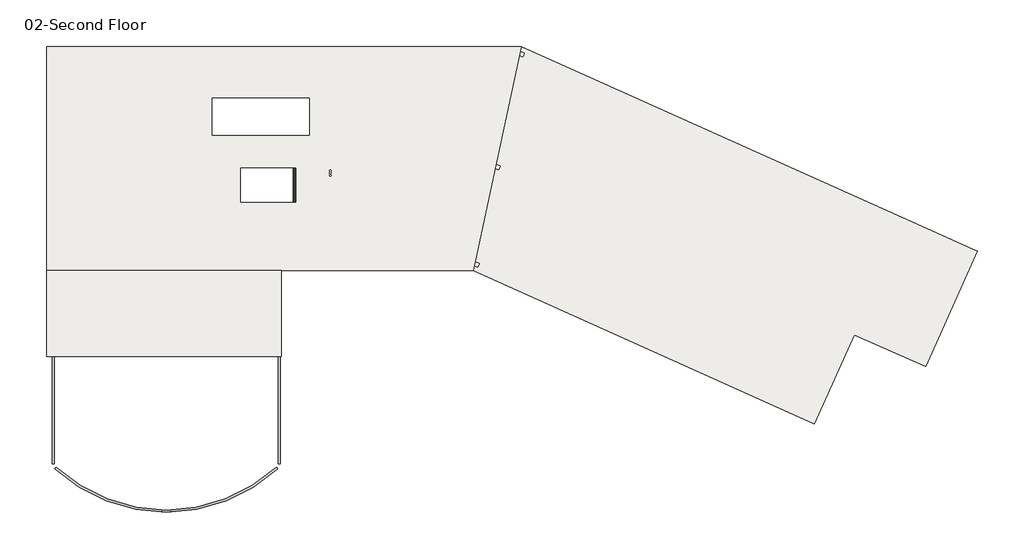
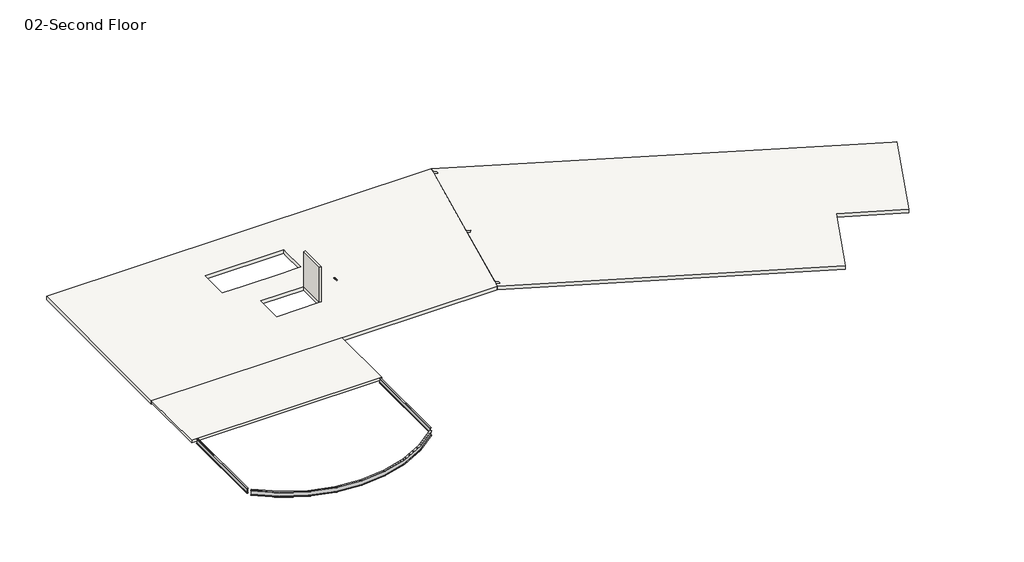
# One storey: 3 beams, 3 slabs, 1 wall.
"""IFC4 building model written with IfcOpenShell, lengths in millimetres."""

import ifcopenshell
import ifcopenshell.guid

model = None  # the IFC model being written
_history = None  # IfcOwnerHistory: only IFC2X3 demands one
_inside = {}  # id of a spatial element -> (the spatial element, [elements in it])
_under = {}  # id of a project, library or spatial element -> (it, [spatial elements below it])
_declared = {}  # id of a project -> (the project, [libraries it declares])
_typed = {}  # id of a type object -> (the type object, [elements of that type])
_made_of = {}  # id of a material, layer set ... -> (it, [elements and type objects made of it])


def new_model(schema):
    """Start an empty IFC model of exactly this schema.

    Asked for "IFC4X3", IfcOpenShell would pick the latest addendum, in which some entities
    have other attributes; the version numbers below select the first issue.
    IFC2X3 requires an IfcOwnerHistory on every rooted entity: one is made here for all.
    """
    global model, _history
    if schema == "IFC4X3":
        model = ifcopenshell.file(schema_version=(4, 3, 0, 0))
    else:
        model = ifcopenshell.file(schema=schema)
    _inside.clear()
    _under.clear()
    _declared.clear()
    _typed.clear()
    _made_of.clear()
    _history = None
    if model.schema == "IFC2X3":
        org = make("IfcOrganization", Name="unknown")
        user = make(
            "IfcPersonAndOrganization",
            ThePerson=make("IfcPerson", FamilyName="unknown"),
            TheOrganization=org,
        )
        app = make(
            "IfcApplication",
            ApplicationDeveloper=org,
            Version="unknown",
            ApplicationFullName="unknown",
            ApplicationIdentifier="unknown",
        )
        _history = make(
            "IfcOwnerHistory",
            OwningUser=user,
            OwningApplication=app,
            ChangeAction="ADDED",
            CreationDate=0,
        )
    return model


def make(cls, **values):
    """One entity of the class cls with the attributes given. An attribute that is None is left unset."""
    return model.create_entity(
        cls, **{name: value for name, value in values.items() if value is not None}
    )


def rooted(cls, **values):
    """An entity with a GlobalId (a new one), such as an element, a storey or a relation."""
    return make(cls, GlobalId=ifcopenshell.guid.new(), OwnerHistory=_history, **values)


def si_unit(unit_type, name, prefix=None):
    """IfcSIUnit, for example si_unit("LENGTHUNIT", "METRE", prefix="MILLI")."""
    return make("IfcSIUnit", UnitType=unit_type, Prefix=prefix, Name=name)


def assignment(units):
    """IfcUnitAssignment: the units of a project."""
    return None if units is None else make("IfcUnitAssignment", Units=units)


def point(xyz):
    """IfcCartesianPoint."""
    return None if xyz is None else make("IfcCartesianPoint", Coordinates=xyz)


def direction(xyz):
    """IfcDirection."""
    return None if xyz is None else make("IfcDirection", DirectionRatios=xyz)


def frame(location, z_axis=None, x_axis=None):
    """IfcAxis2Placement3D, a coordinate frame: its origin and axes. An axis left out is left unset."""
    return make(
        "IfcAxis2Placement3D",
        Location=point(location),
        Axis=direction(z_axis),
        RefDirection=direction(x_axis),
    )


def frame_2d(location, x_axis=None):
    """IfcAxis2Placement2D, a coordinate frame in the plane: its origin and x axis."""
    return make(
        "IfcAxis2Placement2D", Location=point(location), RefDirection=direction(x_axis)
    )


def origin():
    """The frame at (0, 0, 0) with its axes left unset."""
    return frame((0.0, 0.0, 0.0))


def place(relative_to, where):
    """IfcLocalPlacement: puts the frame where relative to a parent placement (None: the world)."""
    return make(
        "IfcLocalPlacement", PlacementRelTo=relative_to, RelativePlacement=where
    )


def context(
    kind, dimensions, precision=None, world=None, true_north=None, identifier=None
):
    """IfcGeometricRepresentationContext, for example the 3D "Model" context."""
    return make(
        "IfcGeometricRepresentationContext",
        ContextIdentifier=identifier,
        ContextType=kind,
        CoordinateSpaceDimension=dimensions,
        Precision=precision,
        WorldCoordinateSystem=world,
        TrueNorth=true_north,
    )


def project(units=None, contexts=None):
    """IfcProject with its units and contexts."""
    return rooted(
        "IfcProject",
        Name="project",
        RepresentationContexts=contexts,
        UnitsInContext=assignment(units),
    )


def spatial(cls, under=None, at=None, **own):
    """A site, building, storey or space (cls), placed at a placement, below another one or the project."""
    s = rooted(cls, ObjectPlacement=at, **own)
    if under is not None:
        _under.setdefault(under.id(), (under, []))[1].append(s)
    return s


def polyline(points):
    """IfcPolyline through the points."""
    return make("IfcPolyline", Points=[point(p) for p in points])


def circle_curve(where, radius):
    """IfcCircle in the frame where."""
    return make("IfcCircle", Position=where, Radius=radius)


def ellipse_curve(where, semi_axis1, semi_axis2):
    """IfcEllipse in the frame where."""
    return make(
        "IfcEllipse", Position=where, SemiAxis1=semi_axis1, SemiAxis2=semi_axis2
    )


def trimmed(basis, trim1, trim2, sense, master):
    """IfcTrimmedCurve: the piece of a basis curve between two trims."""
    return make(
        "IfcTrimmedCurve",
        BasisCurve=basis,
        Trim1=trim1,
        Trim2=trim2,
        SenseAgreement=sense,
        MasterRepresentation=master,
    )


def segment(curve, same_sense, transition):
    """IfcCompositeCurveSegment."""
    return make(
        "IfcCompositeCurveSegment",
        Transition=transition,
        SameSense=same_sense,
        ParentCurve=curve,
    )


def composite_curve(segments, self_intersect=None):
    """IfcCompositeCurve: segments joined end to end."""
    return make("IfcCompositeCurve", Segments=segments, SelfIntersect=self_intersect)


def outline(outer, holes=None, kind="AREA"):
    """IfcArbitraryClosedProfileDef: a profile drawn as a closed curve; with holes, ...WithVoids."""
    if holes is None:
        return make("IfcArbitraryClosedProfileDef", ProfileType=kind, OuterCurve=outer)
    return make(
        "IfcArbitraryProfileDefWithVoids",
        ProfileType=kind,
        OuterCurve=outer,
        InnerCurves=holes,
    )


def extrude(swept, where, along, depth):
    """IfcExtrudedAreaSolid: the profile swept, set in the frame where, extruded along a direction by depth."""
    return make(
        "IfcExtrudedAreaSolid",
        SweptArea=swept,
        Position=where,
        ExtrudedDirection=direction(along),
        Depth=depth,
    )


def faces_of(points, faces, orient=None, outer=None):
    """IfcFace entities. A face is a list of loops; a loop is a list of indices into points, from 0.

    orient and outer hold one flag for each loop. By default every Orientation is true, the
    first loop of a face is its IfcFaceOuterBound and the others are IfcFaceBound.
    """
    made = []
    for i, loops in enumerate(faces):
        bounds = []
        for j, loop in enumerate(loops):
            is_outer = j == 0 if outer is None else outer[i][j]
            bounds.append(
                make(
                    "IfcFaceOuterBound" if is_outer else "IfcFaceBound",
                    Bound=make("IfcPolyLoop", Polygon=[points[k] for k in loop]),
                    Orientation=True if orient is None else orient[i][j],
                )
            )
        made.append(make("IfcFace", Bounds=bounds))
    return made


def faceted_brep(points, faces, orient=None, outer=None, voids=None):
    """IfcFacetedBrep: a solid bounded by flat faces; with voids (closed shells), ...WithVoids."""
    shared = [point(p) for p in points]
    hull = make("IfcClosedShell", CfsFaces=faces_of(shared, faces, orient, outer))
    if voids is None:
        return make("IfcFacetedBrep", Outer=hull)
    return make(
        "IfcFacetedBrepWithVoids",
        Outer=hull,
        Voids=[
            make(cls, CfsFaces=faces_of(shared, fs, o, b)) for cls, fs, o, b in voids
        ],
    )


def shape(context_of_items, identifier, shape_type, items):
    """IfcShapeRepresentation: the items that make up one representation, for example the "Body"."""
    return make(
        "IfcShapeRepresentation",
        ContextOfItems=context_of_items,
        RepresentationIdentifier=identifier,
        RepresentationType=shape_type,
        Items=items,
    )


def source(mapping_origin, context_of_items, identifier, shape_type, items):
    """IfcRepresentationMap: a shape defined once, which mapped items show again and again."""
    return make(
        "IfcRepresentationMap",
        MappingOrigin=mapping_origin,
        MappedRepresentation=shape(context_of_items, identifier, shape_type, items),
    )


def transform(
    local_origin,
    x_axis=None,
    y_axis=None,
    z_axis=None,
    scale=None,
    scale2=None,
    scale3=None,
    uniform=True,
):
    """IfcCartesianTransformationOperator3D, or its non-uniform kind. x_axis, y_axis, z_axis: its Axis1, 2, 3."""
    if uniform:
        return make(
            "IfcCartesianTransformationOperator3D",
            Axis1=direction(x_axis),
            Axis2=direction(y_axis),
            LocalOrigin=point(local_origin),
            Scale=scale,
            Axis3=direction(z_axis),
        )
    return make(
        "IfcCartesianTransformationOperator3DnonUniform",
        Axis1=direction(x_axis),
        Axis2=direction(y_axis),
        LocalOrigin=point(local_origin),
        Scale=scale,
        Axis3=direction(z_axis),
        Scale2=scale2,
        Scale3=scale3,
    )


def mapped(mapping_source, mapping_target):
    """IfcMappedItem: shows the shape of a source again, moved by a transform."""
    return make(
        "IfcMappedItem", MappingSource=mapping_source, MappingTarget=mapping_target
    )


def made_of(thing, what):
    """Note that an element or type object is made of a material, layer set ...; save() writes the relation."""
    if what is not None:
        _made_of.setdefault(what.id(), (what, []))[1].append(thing)
    return thing


def element(
    cls,
    number,
    at=None,
    inside=None,
    cuts=None,
    type_object=None,
    material=None,
    context=None,
    identifier="Body",
    shape_type=None,
    held_by="IfcProductDefinitionShape",
    body=None,
    shapes=None,
    **own,
):
    """One element of the class cls, such as IfcWall. Its Tag is "e" and its number.

    at: its placement. inside: the storey or other place that contains it. cuts: it is an
    opening in that element (IfcRelVoidsElement). A single representation is given by context,
    identifier, shape_type and body (its items); several are given by shapes. held_by: the class
    of the entity that holds the representations. save() writes the other relations.
    """
    e = rooted(cls, Tag="e%d" % number, ObjectPlacement=at, **own)
    if body is not None:
        shapes = [shape(context, identifier, shape_type, body)]
    if shapes is not None:
        e.Representation = make(held_by, Representations=shapes)
    if inside is not None:
        _inside.setdefault(inside.id(), (inside, []))[1].append(e)
    if cuts is not None:
        rooted(
            "IfcRelVoidsElement", RelatingBuildingElement=cuts, RelatedOpeningElement=e
        )
    if type_object is not None:
        _typed.setdefault(type_object.id(), (type_object, []))[1].append(e)
    return made_of(e, material)


def aggregate(whole, parts):
    """IfcRelAggregates: a whole, such as a stair, and the parts it consists of."""
    return rooted("IfcRelAggregates", RelatingObject=whole, RelatedObjects=parts)


def save(model, path):
    """Write the relations noted so far, then the file.

    IfcRelAggregates (storeys below a building ...), IfcRelContainedInSpatialStructure (elements
    in a storey), IfcRelDefinesByType, IfcRelAssociatesMaterial and IfcRelDeclares: one each for
    every whole, place, type object, material and project.
    """
    for whole, parts in _under.values():
        aggregate(whole, parts)
    for where, things in _inside.values():
        rooted(
            "IfcRelContainedInSpatialStructure",
            RelatedElements=things,
            RelatingStructure=where,
        )
    for kind, things in _typed.values():
        rooted("IfcRelDefinesByType", RelatedObjects=things, RelatingType=kind)
    for what, things in _made_of.values():
        rooted("IfcRelAssociatesMaterial", RelatedObjects=things, RelatingMaterial=what)
    for by, libraries in _declared.values():
        rooted("IfcRelDeclares", RelatingContext=by, RelatedDefinitions=libraries)
    model.write(path)


def plane_surface(at):
    """IfcPlane: the flat surface through the origin of the frame at, square to its z axis."""
    return make("IfcPlane", Position=at)


def cylinder_surface(at, radius):
    """IfcCylindricalSurface: all points at the distance radius from the z axis of the frame at."""
    return make("IfcCylindricalSurface", Position=at, Radius=radius)


def revolved_surface(curve, axis_point, axis_direction):
    """IfcSurfaceOfRevolution: the curve turned about the line through axis_point along axis_direction."""
    return make(
        "IfcSurfaceOfRevolution",
        SweptCurve=make("IfcArbitraryOpenProfileDef", ProfileType="CURVE", Curve=curve),
        AxisPosition=make("IfcAxis1Placement", Location=point(axis_point), Axis=direction(axis_direction)),
    )


def advanced_brep(points, edges, surfaces, faces):
    """IfcAdvancedBrep: a solid bounded by faces that lie on surfaces and meet in shared edges.

    An edge is (start, end): straight between two places in points (the first is 0);
    or (start, end, curve); or (start, end, curve, False) where it runs against its curve.
    A face is (place in surfaces, loops), or (place, loops, False) where it looks against
    its surface's normal. A loop lists edges by number (the first is 1), with a minus sign
    where the edge is run from its end to its start. The first loop is the outer one.
    """
    corners = [point(p) for p in points]
    vertices = [make("IfcVertexPoint", VertexGeometry=c) for c in corners]
    made = []
    for start, end, *more in edges:
        made.append(
            make(
                "IfcEdgeCurve",
                EdgeStart=vertices[start],
                EdgeEnd=vertices[end],
                EdgeGeometry=more[0] if more else make("IfcPolyline", Points=[corners[start], corners[end]]),
                SameSense=more[1] if len(more) > 1 else True,
            )
        )
    hull = []
    for where, loops, *sense in faces:
        bounds = []
        for j, loop in enumerate(loops):
            ring = [make("IfcOrientedEdge", EdgeElement=made[abs(k) - 1], Orientation=k > 0) for k in loop]
            bounds.append(
                make(
                    "IfcFaceOuterBound" if j == 0 else "IfcFaceBound",
                    Bound=make("IfcEdgeLoop", EdgeList=ring),
                    Orientation=True,
                )
            )
        hull.append(make("IfcAdvancedFace", Bounds=bounds, FaceSurface=surfaces[where], SameSense=sense[0] if sense else True))
    return make("IfcAdvancedBrep", Outer=make("IfcClosedShell", CfsFaces=hull))


def w_shapes_w16x26_e367a1e3(model_context):
    return source(origin(), model_context, "Body", "SweptSolid", [
        extrude(outline(composite_curve([segment(polyline([(69.85, -190.627), (69.85, -199.39), (-69.85, -199.39), (-69.85, -190.627), (-13.3858, -190.627)]), True, "CONTINUOUS"), segment(trimmed(circle_curve(frame_2d((-13.3858, -180.4162)), 10.2108), [point((-13.3858, -190.627))], [point((-3.175, -180.4162))], True, "CARTESIAN"), True, "CONTINUOUS"), segment(polyline([(-3.175, -180.4162), (-3.175, 180.4162)]), True, "CONTINUOUS"), segment(trimmed(circle_curve(frame_2d((-13.3858, 180.4162)), 10.2108), [point((-3.175, 180.4162))], [point((-13.3858, 190.627))], True, "CARTESIAN"), True, "CONTINUOUS"), segment(polyline([(-13.3858, 190.627), (-69.85, 190.627), (-69.85, 199.39), (69.85, 199.39), (69.85, 190.627), (13.3858, 190.627)]), True, "CONTINUOUS"), segment(trimmed(circle_curve(frame_2d((13.3858, 180.4162)), 10.2108), [point((13.3858, 190.627))], [point((3.175, 180.4162))], True, "CARTESIAN"), True, "CONTINUOUS"), segment(polyline([(3.175, 180.4162), (3.175, -180.4162)]), True, "CONTINUOUS"), segment(trimmed(circle_curve(frame_2d((13.3858, -180.4162)), 10.2108), [point((3.175, -180.4162))], [point((13.3858, -190.627))], True, "CARTESIAN"), True, "CONTINUOUS"), segment(polyline([(13.3858, -190.627), (69.85, -190.627)]), True, "CONTINUOUS")], self_intersect=False)), frame((-3584.829, 0.0, 0.0), z_axis=(1.0, 0.0, 0.0), x_axis=(0.0, 1.0, 0.0)), (0.0, 0.0, 1.0), 7166.229),
    ])


def w_shapes_w16x26_bd6dae71(model_context):
    return source(origin(), model_context, "Body", "SweptSolid", [
        extrude(outline(composite_curve([segment(polyline([(69.85, -190.627), (69.85, -199.39), (-69.85, -199.39), (-69.85, -190.627), (-13.3858, -190.627)]), True, "CONTINUOUS"), segment(trimmed(circle_curve(frame_2d((-13.3858, -180.4162)), 10.2108), [point((-13.3858, -190.627))], [point((-3.175, -180.4162))], True, "CARTESIAN"), True, "CONTINUOUS"), segment(polyline([(-3.175, -180.4162), (-3.175, 180.4162)]), True, "CONTINUOUS"), segment(trimmed(circle_curve(frame_2d((-13.3858, 180.4162)), 10.2108), [point((-3.175, 180.4162))], [point((-13.3858, 190.627))], True, "CARTESIAN"), True, "CONTINUOUS"), segment(polyline([(-13.3858, 190.627), (-69.85, 190.627), (-69.85, 199.39), (69.85, 199.39), (69.85, 190.627), (13.3858, 190.627)]), True, "CONTINUOUS"), segment(trimmed(circle_curve(frame_2d((13.3858, 180.4162)), 10.2108), [point((13.3858, 190.627))], [point((3.175, 180.4162))], True, "CARTESIAN"), True, "CONTINUOUS"), segment(polyline([(3.175, 180.4162), (3.175, -180.4162)]), True, "CONTINUOUS"), segment(trimmed(circle_curve(frame_2d((13.3858, -180.4162)), 10.2108), [point((3.175, -180.4162))], [point((13.3858, -190.627))], True, "CARTESIAN"), True, "CONTINUOUS"), segment(polyline([(13.3858, -190.627), (69.85, -190.627)]), True, "CONTINUOUS")], self_intersect=False)), frame((-3581.4, 0.0, 0.0), z_axis=(1.0, 0.0, 0.0), x_axis=(0.0, 1.0, 0.0)), (0.0, 0.0, 1.0), 7166.229),
    ])


def w_shapes_w16x26_8057c508(model_context):
    return source(origin(), model_context, "Body", "AdvancedBrep", [
        advanced_brep(
        [(10900.3353789, -10168.7475051, -190.627), (10843.9817352, -10172.2791801, -190.627), (10833.7909279, -10172.9178365, -180.4162), (10833.7909279, -10172.9178365, 180.4162), (10843.9817352, -10172.2791801, 190.627), (10900.3353789, -10168.7475051, 190.627), (10900.3353789, -10168.7475051, 199.39), (10760.9089101, -10177.4853424, 199.39), (10760.9089101, -10177.4853424, 190.627), (10817.2625537, -10173.9536674, 190.627), (10827.4533611, -10173.315011, 180.4162), (10827.4533611, -10173.315011, -180.4162), (10817.2625537, -10173.9536674, -190.627), (10760.9089101, -10177.4853424, -190.627), (10760.9089101, -10177.4853424, -199.39), (10900.3353789, -10168.7475051, -199.39), (193.4708242, 68.1362637, -190.627), (193.4708242, 68.1362637, -199.39), (190.996134, -71.5418159, -199.39), (190.996134, -71.5418159, -190.627), (191.9963588, -15.0864757, -190.627), (192.1772362, -4.8772779, -180.4162), (192.1772362, -4.8772779, 180.4162), (191.9963588, -15.0864757, 190.627), (190.996134, -71.5418159, 190.627), (190.996134, -71.5418159, 199.39), (193.4708242, 68.1362637, 199.39), (193.4708242, 68.1362637, 190.627), (192.4705994, 11.6809235, 190.627), (192.2897221, 1.4717257, 180.4162), (192.2897221, 1.4717257, -180.4162), (192.4705994, 11.6809235, -190.627)],
        [
            (0, 1),
            (1, 2, circle_curve(frame((10843.9817352, -10172.2791801, -180.4162), z_axis=(-0.06254715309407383, 0.9980420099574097, 0.0), x_axis=(-0.9980420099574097, -0.06254715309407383, 0.0)), 10.2108)),
            (2, 3),
            (3, 4, circle_curve(frame((10843.9817352, -10172.2791801, 180.4162), z_axis=(-0.06254715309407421, 0.9980420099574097, 0.0), x_axis=(-0.9980420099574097, -0.06254715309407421, 0.0)), 10.2108)),
            (4, 5),
            (5, 6),
            (6, 7),
            (7, 8),
            (8, 9),
            (9, 10, circle_curve(frame((10817.2625537, -10173.9536674, 180.4162), z_axis=(-0.06254715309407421, 0.9980420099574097, 0.0), x_axis=(-0.9980420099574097, -0.06254715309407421, 0.0)), 10.2108)),
            (10, 11),
            (11, 12, circle_curve(frame((10817.2625537, -10173.9536674, -180.4162), z_axis=(-0.06254715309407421, 0.9980420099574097, 0.0), x_axis=(-0.9980420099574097, -0.06254715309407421, 0.0)), 10.2108)),
            (12, 13),
            (13, 14),
            (14, 15),
            (15, 0),
            (16, 17),
            (17, 18),
            (18, 19),
            (19, 20),
            (20, 21, circle_curve(frame((191.9963588, -15.0864757, -180.4162), z_axis=(0.9998430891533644, -0.017714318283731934, 0.0), x_axis=(-0.017714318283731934, -0.9998430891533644, 0.0)), 10.2108)),
            (21, 22),
            (22, 23, circle_curve(frame((191.9963588, -15.0864757, 180.4162), z_axis=(0.9998430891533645, -0.017714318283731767, 0.0), x_axis=(-0.017714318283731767, -0.9998430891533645, 0.0)), 10.2108)),
            (23, 24),
            (24, 25),
            (25, 26),
            (26, 27),
            (27, 28),
            (28, 29, circle_curve(frame((192.4705994, 11.6809235, 180.4162), z_axis=(0.9998430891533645, -0.017714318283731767, 0.0), x_axis=(-0.017714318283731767, -0.9998430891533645, 0.0)), 10.2108)),
            (29, 30),
            (30, 31, circle_curve(frame((192.4705994, 11.6809235, -180.4162), z_axis=(0.9998430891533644, -0.017714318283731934, 0.0), x_axis=(-0.017714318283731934, -0.9998430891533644, 0.0)), 10.2108)),
            (31, 16),
            (0, 16, circle_curve(frame((0.0, -10851.8699979, -190.627), z_axis=(0.0, 0.0, 1.0), x_axis=(-0.7227923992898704, 0.691065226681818, 0.0)), 10921.7199979)),
            (31, 1, circle_curve(frame((0.0, -10851.8699979, -190.627), z_axis=(0.0, 0.0, -1.0), x_axis=(-0.7227923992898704, 0.691065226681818, 0.0)), 10865.2557979)),
            (30, 2, circle_curve(frame((0.0, -10851.8699979, -180.4162), z_axis=(0.0, 0.0, -1.0), x_axis=(-0.7227923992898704, 0.691065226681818, 0.0)), 10855.0449979)),
            (29, 3, circle_curve(frame((0.0, -10851.8699979, 180.4162), z_axis=(0.0, 0.0, -1.0), x_axis=(-0.7227923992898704, 0.691065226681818, 0.0)), 10855.0449979)),
            (28, 4, circle_curve(frame((0.0, -10851.8699979, 190.627), z_axis=(0.0, 0.0, -1.0), x_axis=(-0.7227923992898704, 0.691065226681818, 0.0)), 10865.2557979)),
            (27, 5, circle_curve(frame((0.0, -10851.8699979, 190.627), z_axis=(0.0, 0.0, -1.0), x_axis=(-0.7227923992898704, 0.691065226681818, 0.0)), 10921.7199979)),
            (26, 6, circle_curve(frame((0.0, -10851.8699979, 199.39), z_axis=(0.0, 0.0, -1.0), x_axis=(-0.7227923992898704, 0.691065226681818, 0.0)), 10921.7199979)),
            (25, 7, circle_curve(frame((0.0, -10851.8699979, 199.39), z_axis=(0.0, 0.0, -1.0), x_axis=(-0.7227923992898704, 0.691065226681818, 0.0)), 10782.0199979)),
            (24, 8, circle_curve(frame((0.0, -10851.8699979, 190.627), z_axis=(0.0, 0.0, -1.0), x_axis=(-0.7227923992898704, 0.691065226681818, 0.0)), 10782.0199979)),
            (23, 9, circle_curve(frame((0.0, -10851.8699979, 190.627), z_axis=(0.0, 0.0, -1.0), x_axis=(-0.7227923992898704, 0.691065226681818, 0.0)), 10838.4841979)),
            (22, 10, circle_curve(frame((0.0, -10851.8699979, 180.4162), z_axis=(0.0, 0.0, -1.0), x_axis=(-0.7227923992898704, 0.691065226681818, 0.0)), 10848.6949979)),
            (21, 11, circle_curve(frame((0.0, -10851.8699979, -180.4162), z_axis=(0.0, 0.0, -1.0), x_axis=(-0.7227923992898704, 0.691065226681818, 0.0)), 10848.6949979)),
            (20, 12, circle_curve(frame((0.0, -10851.8699979, -190.627), z_axis=(0.0, 0.0, -1.0), x_axis=(-0.7227923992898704, 0.691065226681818, 0.0)), 10838.4841979)),
            (19, 13, circle_curve(frame((0.0, -10851.8699979, -190.627), z_axis=(0.0, 0.0, -1.0), x_axis=(-0.7227923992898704, 0.691065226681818, 0.0)), 10782.0199979)),
            (18, 14, circle_curve(frame((0.0, -10851.8699979, -199.39), z_axis=(0.0, 0.0, -1.0), x_axis=(-0.7227923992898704, 0.691065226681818, 0.0)), 10782.0199979)),
            (17, 15, circle_curve(frame((0.0, -10851.8699979, -199.39), z_axis=(0.0, 0.0, -1.0), x_axis=(-0.7227923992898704, 0.691065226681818, 0.0)), 10921.7199979)),
        ],
        [
            plane_surface(frame((10830.6221445, -10173.1164238, 0.0), z_axis=(0.0625471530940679, -0.9980420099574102, 0.0), x_axis=(0.0, 0.0, 1.0))),
            plane_surface(frame((192.2334791, -1.7027761, 0.0), z_axis=(-0.9998430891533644, 0.017714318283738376, 0.0), x_axis=(0.0, 0.0, 1.0))),
            plane_surface(frame((0.0, -10851.8699979, -190.627), z_axis=(0.0, 0.0, 1.0), x_axis=(-0.7227923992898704, 0.691065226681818, 0.0))),
            revolved_surface(trimmed(ellipse_curve(frame((-7853.324307, -3343.269537, -180.4162), z_axis=(0.6910652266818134, 0.7227923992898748, 0.0), x_axis=(0.7227923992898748, -0.6910652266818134, 0.0)), 10.2108, 10.2108), [point((-7845.9440184, -3350.3258658, -180.4162))], [point((-7853.324307, -3343.269537, -190.627))], True, "CARTESIAN"), (0.0, -10851.8699979, 0.0), (0.0, 0.0, -1.0)),
            cylinder_surface(frame((0.0, -10851.8699979, 0.0), z_axis=(0.0, 0.0, -1.0), x_axis=(-0.7227923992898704, 0.691065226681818, 0.0)), 10855.0449979),
            revolved_surface(trimmed(ellipse_curve(frame((-7853.324307, -3343.269537, 180.4162), z_axis=(0.6910652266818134, 0.7227923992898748, 0.0), x_axis=(0.7227923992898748, -0.6910652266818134, 0.0)), 10.2108, 10.2108), [point((-7853.324307, -3343.269537, 190.627))], [point((-7845.9440184, -3350.3258658, 180.4162))], True, "CARTESIAN"), (0.0, -10851.8699979, 0.0), (0.0, 0.0, -1.0)),
            plane_surface(frame((0.0, -10851.8699979, 190.627), z_axis=(0.0, 0.0, -1.0), x_axis=(-0.7227923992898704, 0.691065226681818, 0.0))),
            cylinder_surface(frame((0.0, -10851.8699979, 0.0), z_axis=(0.0, 0.0, -1.0), x_axis=(-0.7227923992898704, 0.691065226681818, 0.0)), 10921.7199979),
            plane_surface(frame((0.0, -10851.8699979, 199.39), z_axis=(0.0, 0.0, 1.0), x_axis=(-0.7227923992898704, 0.691065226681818, 0.0))),
            revolved_surface(polyline([(-7793.162103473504, -3400.7909039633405, 190.627), (-7793.162103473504, -3400.7909039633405, 199.39)]), (0.0, -10851.8699979, 0.0), (0.0, 0.0, -1.0)),
            revolved_surface(trimmed(ellipse_curve(frame((-7833.973998, -3361.7704588, 180.4162), z_axis=(0.6910652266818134, 0.7227923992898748, 0.0), x_axis=(0.7227923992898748, -0.6910652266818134, 0.0)), 10.2108, 10.2108), [point((-7841.3542867, -3354.71413, 180.4162))], [point((-7833.973998, -3361.7704588, 190.627))], True, "CARTESIAN"), (0.0, -10851.8699979, 0.0), (0.0, 0.0, -1.0)),
            revolved_surface(polyline([(-7841.354286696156, -3354.7141299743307, -180.4162), (-7841.354286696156, -3354.7141299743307, 180.4162)]), (0.0, -10851.8699979, 0.0), (0.0, 0.0, -1.0)),
            revolved_surface(trimmed(ellipse_curve(frame((-7833.973998, -3361.7704588, -180.4162), z_axis=(0.6910652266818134, 0.7227923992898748, 0.0), x_axis=(0.7227923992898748, -0.6910652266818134, 0.0)), 10.2108, 10.2108), [point((-7833.973998, -3361.7704588, -190.627))], [point((-7841.3542867, -3354.71413, -180.4162))], True, "CARTESIAN"), (0.0, -10851.8699979, 0.0), (0.0, 0.0, -1.0)),
            revolved_surface(polyline([(-7793.162103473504, -3400.7909039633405, -199.39), (-7793.162103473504, -3400.7909039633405, -190.627)]), (0.0, -10851.8699979, 0.0), (0.0, 0.0, -1.0)),
            plane_surface(frame((0.0, -10851.8699979, -199.39), z_axis=(0.0, 0.0, -1.0), x_axis=(-0.7227923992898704, 0.691065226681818, 0.0))),
        ],
        [
            (0, [[1, 2, 3, 4, 5, 6, 7, 8, 9, 10, 11, 12, 13, 14, 15, 16]]),
            (1, [[17, 18, 19, 20, 21, 22, 23, 24, 25, 26, 27, 28, 29, 30, 31, 32]]),
            (2, [[-1, 33, -32, 34]]),
            (3, [[-2, -34, -31, 35]]),
            (4, [[-3, -35, -30, 36]]),
            (5, [[-4, -36, -29, 37]]),
            (6, [[-5, -37, -28, 38]]),
            (7, [[-6, -38, -27, 39]]),
            (8, [[-7, -39, -26, 40]]),
            (9, [[-8, -40, -25, 41]]),
            (6, [[-9, -41, -24, 42]]),
            (10, [[-10, -42, -23, 43]]),
            (11, [[-11, -43, -22, 44]]),
            (12, [[-12, -44, -21, 45]]),
            (2, [[-13, -45, -20, 46]]),
            (13, [[-14, -46, -19, 47]]),
            (14, [[-15, -47, -18, 48]]),
            (7, [[-16, -48, -17, -33]]),
        ],
    ),
    ])


model = new_model("IFC4")

# Units and contexts
model_context = context("Model", 3, world=origin())
ifc_project = project(units=[si_unit("LENGTHUNIT", "METRE", prefix="MILLI")], contexts=[model_context])

# Site, building, storey
site = spatial("IfcSite", under=ifc_project)
building = spatial("IfcBuilding", under=site)
storey = spatial("IfcBuildingStorey", under=building, Name="02-Second Floor", Elevation=6705.6)

# Beams
placement = place(None, origin())
w_shapes_w16x26_shape = w_shapes_w16x26_e367a1e3(model_context)
element("IfcBeam", 1, ObjectType="W Shapes : W16X26", at=placement, inside=storey, context=model_context, shape_type="MappedRepresentation", body=[
    mapped(w_shapes_w16x26_shape, transform((14998.7, -23723.6, 6506.21), x_axis=(0.0, -1.0, 0.0), y_axis=(1.0, 0.0, 0.0), z_axis=(0.0, 0.0, 1.0))),
])
w_shapes_w16x26_2_shape = w_shapes_w16x26_bd6dae71(model_context)
element("IfcBeam", 2, ObjectType="W Shapes : W16X26", at=placement, inside=storey, context=model_context, shape_type="MappedRepresentation", body=[
    mapped(w_shapes_w16x26_2_shape, transform((0.0, -23723.6, 6506.21), x_axis=(0.0, 1.0, 0.0), y_axis=(-1.0, 0.0, 0.0), z_axis=(0.0, 0.0, 1.0))),
])
w_shapes_w16x26_3_shape = w_shapes_w16x26_8057c508(model_context)
element("IfcBeam", 3, ObjectType="W Shapes : W16X26", at=placement, inside=storey, context=model_context, shape_type="MappedRepresentation", body=[
    mapped(w_shapes_w16x26_3_shape, transform((14998.7, -27444.7, 6506.21), x_axis=(-0.7227923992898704, -0.691065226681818, 0.0), y_axis=(0.691065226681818, -0.7227923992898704, 0.0), z_axis=(0.0, 0.0, 1.0))),
])

# Slabs
element("IfcSlab", 4, ObjectType="RC Composite Slab 8\"", at=placement, inside=storey, context=model_context, shape_type="SweptSolid", body=[
    extrude(outline(polyline([(15151.1, -20154.9), (-457.2, -20154.9), (-457.2, -14452.6), (15151.1, -14452.6), (15151.1, -20154.9)])), frame((0.0, 0.0, 6502.4), z_axis=(0.0, 0.0, 1.0), x_axis=(1.0, 0.0, 0.0)), (0.0, 0.0, 1.0), 203.2),
])
element("IfcSlab", 5, ObjectType="RC Slab 12\"", at=placement, inside=storey, context=model_context, shape_type="AdvancedBrep", body=[
    advanced_brep(
    [(-457.2, 457.2, 6400.8), (31098.7387393, 457.2, 6400.8), (27903.7815965, -14452.6, 6400.8), (-457.2, -14452.6, 6400.8), (17005.3, -2984.5, 6400.8), (10553.7, -2984.5, 6400.8), (10553.7, -5422.9, 6400.8), (10858.5, -5422.9, 6400.8), (17005.3, -5422.9, 6400.8), (17005.3, -5168.9, 6400.8), (17005.3, -3289.3, 6400.8), (15951.2, -7633.3081651, 6400.8), (12446.0, -7633.3081651, 6400.8), (12446.0, -9893.3, 6400.8), (15951.2, -9893.3, 6400.8), (18347.8020543, -8109.4381113, 6400.8), (18449.4020543, -8109.4381113, 6400.8), (18347.8020543, -7957.0381113, 6400.8), (18449.4020543, -7957.0381113, 6400.8), (18347.8020543, -7804.6381113, 6400.8), (18449.4020543, -7804.6381113, 6400.8), (31098.7387393, 457.2, 6705.6), (-457.2, 457.2, 6705.6), (-457.2, -14452.6, 6705.6), (15151.1, -14452.6, 6705.6), (27903.7815965, -14452.6, 6705.6), (10553.7, -2984.5, 6705.6), (17005.3, -2984.5, 6705.6), (17005.3, -3289.3, 6705.6), (17005.3, -5168.9, 6705.6), (17005.3, -5422.9, 6705.6), (16522.7, -5422.9, 6705.6), (15608.3, -5422.9, 6705.6), (14389.1, -5422.9, 6705.6), (13474.7, -5422.9, 6705.6), (12242.8, -5422.9, 6705.6), (11328.4, -5422.9, 6705.6), (10553.7, -5422.9, 6705.6), (12446.0, -7633.3081651, 6705.6), (15951.2, -7633.3081651, 6705.6), (15951.2, -9893.3, 6705.6), (12446.0, -9893.3, 6705.6), (18449.4020543, -8109.4381113, 6705.6), (18347.8020543, -8109.4381113, 6705.6), (18449.4020543, -7957.0381113, 6705.6), (18347.8020543, -7957.0381113, 6705.6), (18449.4020543, -7804.6381113, 6705.6), (18347.8020543, -7804.6381113, 6705.6), (-457.2, -14452.6, 6502.4)],
    [
        (0, 1),
        (1, 2),
        (2, 3),
        (3, 0),
        (4, 5),
        (5, 6),
        (6, 7),
        (7, 8),
        (8, 9),
        (9, 10),
        (10, 4),
        (11, 12),
        (12, 13),
        (13, 14),
        (14, 11),
        (15, 16, circle_curve(frame((18398.6020543, -8109.4381113, 6400.8), z_axis=(0.0, 0.0, 1.0), x_axis=(1.0, 0.0, 0.0)), 50.8)),
        (16, 15, circle_curve(frame((18398.6020543, -8109.4381113, 6400.8), z_axis=(0.0, 0.0, 1.0), x_axis=(1.0, 0.0, 0.0)), 50.8)),
        (17, 18, circle_curve(frame((18398.6020543, -7957.0381113, 6400.8), z_axis=(0.0, 0.0, 1.0), x_axis=(1.0, 0.0, 0.0)), 50.8)),
        (18, 17, circle_curve(frame((18398.6020543, -7957.0381113, 6400.8), z_axis=(0.0, 0.0, 1.0), x_axis=(1.0, 0.0, 0.0)), 50.8)),
        (19, 20, circle_curve(frame((18398.6020543, -7804.6381113, 6400.8), z_axis=(0.0, 0.0, 1.0), x_axis=(1.0, 0.0, 0.0)), 50.8)),
        (20, 19, circle_curve(frame((18398.6020543, -7804.6381113, 6400.8), z_axis=(0.0, 0.0, 1.0), x_axis=(1.0, 0.0, 0.0)), 50.8)),
        (21, 22),
        (22, 23),
        (23, 24),
        (24, 25),
        (25, 21),
        (26, 27),
        (27, 28),
        (28, 29),
        (29, 30),
        (30, 31),
        (31, 32),
        (32, 33),
        (33, 34),
        (34, 35),
        (35, 36),
        (36, 37),
        (37, 26),
        (38, 39),
        (39, 40),
        (40, 41),
        (41, 38),
        (42, 43, circle_curve(frame((18398.6020543, -8109.4381113, 6705.6), z_axis=(0.0, 0.0, -1.0), x_axis=(1.0, 0.0, 0.0)), 50.8)),
        (43, 42, circle_curve(frame((18398.6020543, -8109.4381113, 6705.6), z_axis=(0.0, 0.0, -1.0), x_axis=(1.0, 0.0, 0.0)), 50.8)),
        (44, 45, circle_curve(frame((18398.6020543, -7957.0381113, 6705.6), z_axis=(0.0, 0.0, -1.0), x_axis=(1.0, 0.0, 0.0)), 50.8)),
        (45, 44, circle_curve(frame((18398.6020543, -7957.0381113, 6705.6), z_axis=(0.0, 0.0, -1.0), x_axis=(1.0, 0.0, 0.0)), 50.8)),
        (46, 47, circle_curve(frame((18398.6020543, -7804.6381113, 6705.6), z_axis=(0.0, 0.0, -1.0), x_axis=(1.0, 0.0, 0.0)), 50.8)),
        (47, 46, circle_curve(frame((18398.6020543, -7804.6381113, 6705.6), z_axis=(0.0, 0.0, -1.0), x_axis=(1.0, 0.0, 0.0)), 50.8)),
        (0, 22),
        (21, 1),
        (25, 2),
        (23, 48),
        (48, 3),
        (4, 27),
        (26, 5),
        (37, 6),
        (30, 8),
        (11, 39),
        (38, 12),
        (41, 13),
        (40, 14),
        (15, 43),
        (42, 16),
        (17, 45),
        (44, 18),
        (19, 47),
        (46, 20),
    ],
    [
        plane_surface(frame((0.0, 457.2, 6400.8), z_axis=(0.0, 0.0, -1.0), x_axis=(1.0, 0.0, 0.0))),
        plane_surface(frame((0.0, 457.2, 6705.6), z_axis=(0.0, 0.0, 1.0), x_axis=(-1.0, 0.0, 0.0))),
        plane_surface(frame((-457.2, 457.2, 6400.8), z_axis=(0.0, 1.0, 0.0), x_axis=(0.0, 0.0, 1.0))),
        plane_surface(frame((31098.7387393, 457.2, 6400.8), z_axis=(0.9778024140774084, -0.2095290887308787, 0.0), x_axis=(0.0, 0.0, 1.0))),
        plane_surface(frame((27903.7815965, -14452.6, 6400.8), z_axis=(0.0, -1.0, 0.0), x_axis=(0.0, 0.0, 1.0))),
        plane_surface(frame((-457.2, -14452.6, 6400.8), z_axis=(-1.0, 0.0, 0.0), x_axis=(0.0, 0.0, 1.0))),
        plane_surface(frame((17005.3, -2984.5, 10363.2), z_axis=(0.0, -1.0, 0.0), x_axis=(0.0, 0.0, -1.0))),
        plane_surface(frame((10553.7, -2984.5, 10363.2), z_axis=(1.0, 0.0, 0.0), x_axis=(0.0, 0.0, -1.0))),
        plane_surface(frame((10553.7, -5422.9, 10363.2), z_axis=(0.0, 1.0, 0.0), x_axis=(0.0, 0.0, -1.0))),
        plane_surface(frame((17005.3, -5422.9, 10363.2), z_axis=(-1.0, 0.0, 0.0), x_axis=(0.0, 0.0, -1.0))),
        plane_surface(frame((15951.2, -7633.3081651, 10363.2), z_axis=(0.0, -1.0, 0.0), x_axis=(0.0, 0.0, -1.0))),
        plane_surface(frame((12446.0, -7633.3081651, 10363.2), z_axis=(1.0, 0.0, 0.0), x_axis=(0.0, 0.0, -1.0))),
        plane_surface(frame((12446.0, -9893.3, 10363.2), z_axis=(0.0, 1.0, 0.0), x_axis=(0.0, 0.0, -1.0))),
        plane_surface(frame((15951.2, -9893.3, 10363.2), z_axis=(-1.0, 0.0, 0.0), x_axis=(0.0, 0.0, -1.0))),
        revolved_surface(polyline([(18449.4020543, -8109.4381113, 6705.6), (18449.4020543, -8109.4381113, 6400.8)]), (18398.6020543, -8109.4381113, 6096.0), (0.0, 0.0, 1.0)),
        revolved_surface(polyline([(18449.4020543, -7957.0381113, 6705.6), (18449.4020543, -7957.0381113, 6400.8)]), (18398.6020543, -7957.0381113, 6096.0), (0.0, 0.0, 1.0)),
        revolved_surface(polyline([(18449.4020543, -7804.6381113, 6705.6), (18449.4020543, -7804.6381113, 6400.8)]), (18398.6020543, -7804.6381113, 6096.0), (0.0, 0.0, 1.0)),
    ],
    [
        (0, [[1, 2, 3, 4], [5, 6, 7, 8, 9, 10, 11], [12, 13, 14, 15], [16, 17], [18, 19], [20, 21]]),
        (1, [[22, 23, 24, 25, 26], [27, 28, 29, 30, 31, 32, 33, 34, 35, 36, 37, 38], [39, 40, 41, 42], [43, 44], [45, 46], [47, 48]]),
        (2, [[-1, 49, -22, 50]]),
        (3, [[-2, -50, -26, 51]]),
        (4, [[-3, -51, -25, -24, 52, 53]]),
        (5, [[-4, -53, -52, -23, -49]]),
        (6, [[54, -27, 55, -5]]),
        (7, [[-55, -38, 56, -6]]),
        (8, [[-56, -37, -36, -35, -34, -33, -32, -31, 57, -8, -7]]),
        (9, [[-54, -11, -10, -9, -57, -30, -29, -28]]),
        (10, [[58, -39, 59, -12]]),
        (11, [[-59, -42, 60, -13]]),
        (12, [[-60, -41, 61, -14]]),
        (13, [[-58, -15, -61, -40]]),
        (14, [[62, -43, 63, -16]]),
        (14, [[-62, -17, -63, -44]]),
        (15, [[64, -45, 65, -18]]),
        (15, [[-64, -19, -65, -46]]),
        (16, [[66, -47, 67, -20]]),
        (16, [[-66, -21, -67, -48]]),
    ],
),
])
element("IfcSlab", 6, ObjectType="RC Slab 12\"", at=placement, inside=storey, context=model_context, shape_type="Brep", body=[
    faceted_brep([(61413.0546278, -13159.9258537, 6400.8), (57962.8673107, -20840.7, 6400.8), (53236.2370668, -18717.5078049, 6400.8), (50577.0429205, -24637.3804878, 6400.8), (27903.7815965, -14452.6, 6400.8), (27969.0988162, -14147.786308, 6400.8), (28217.3432689, -14259.3121951, 6400.8), (28342.2369275, -13981.275122, 6400.8), (28034.4045592, -13843.0124873, 6400.8), (29359.7488162, -7658.086308, 6400.8), (29607.9932689, -7769.6121951, 6400.8), (29732.8869275, -7491.575122, 6400.8), (29425.0545592, -7353.3124873, 6400.8), (30968.1131019, -152.386308, 6400.8), (31216.3575546, -263.9121951, 6400.8), (31341.2512132, 14.124878, 6400.8), (31033.4188449, 152.3875127, 6400.8), (31098.7387393, 457.2, 6400.8), (58354.6468229, -11786.0956098, 6400.8), (61135.0175546, -13035.0321951, 6400.8), (57962.8673107, -20840.7, 6705.6), (61413.0546278, -13159.9258537, 6705.6), (61135.0175546, -13035.0321951, 6705.6), (58354.6468229, -11786.0956098, 6705.6), (31098.7387393, 457.2, 6705.6), (31033.4244536, 152.4, 6705.6), (31341.2512132, 14.124878, 6705.6), (31216.3575546, -263.9121951, 6705.6), (30968.1131019, -152.386308, 6705.6), (29425.0601679, -7353.3, 6705.6), (29732.8869275, -7491.575122, 6705.6), (29607.9932689, -7769.6121951, 6705.6), (29359.7488162, -7658.086308, 6705.6), (28034.4101679, -13843.0, 6705.6), (28342.2369275, -13981.275122, 6705.6), (28217.3432689, -14259.3121951, 6705.6), (27969.0988162, -14147.786308, 6705.6), (27903.7815965, -14452.6, 6705.6), (50577.0429205, -24637.3804878, 6705.6), (53236.2370668, -18717.5078049, 6705.6)], [[[0, 1, 2, 3, 4, 5, 6, 7, 8, 9, 10, 11, 12, 13, 14, 15, 16, 17, 18, 19]], [[20, 21, 22, 23, 24, 25, 26, 27, 28, 29, 30, 31, 32, 33, 34, 35, 36, 37, 38, 39]], [[1, 0, 21, 20]], [[2, 1, 20, 39]], [[3, 2, 39, 38]], [[4, 3, 38, 37]], [[4, 37, 36, 5]], [[24, 17, 16, 25]], [[8, 33, 32, 9]], [[28, 13, 12, 29]], [[0, 19, 18, 17, 24, 23, 22, 21]], [[7, 34, 33, 8]], [[34, 7, 6, 35]], [[35, 6, 5, 36]], [[15, 26, 25, 16]], [[26, 15, 14, 27]], [[27, 14, 13, 28]], [[11, 30, 29, 12]], [[30, 11, 10, 31]], [[31, 10, 9, 32]]]),
])

# Wall
element("IfcWall", 7, ObjectType="6\" Blockwork with render", at=placement, inside=storey, context=model_context, shape_type="SweptSolid", body=[
    extrude(outline(polyline([(16103.6, -7632.7), (16103.6, -9893.3), (15951.2, -9893.3), (15951.2, -7632.7), (16103.6, -7632.7)])), frame((0.0, 0.0, 6705.6), z_axis=(0.0, 0.0, 1.0), x_axis=(1.0, 0.0, 0.0)), (0.0, 0.0, 1.0), 3048.0),
])

save(model, "model.ifc")
